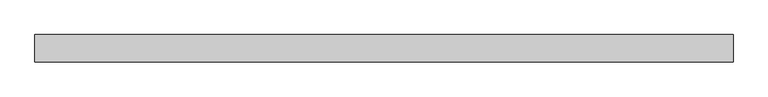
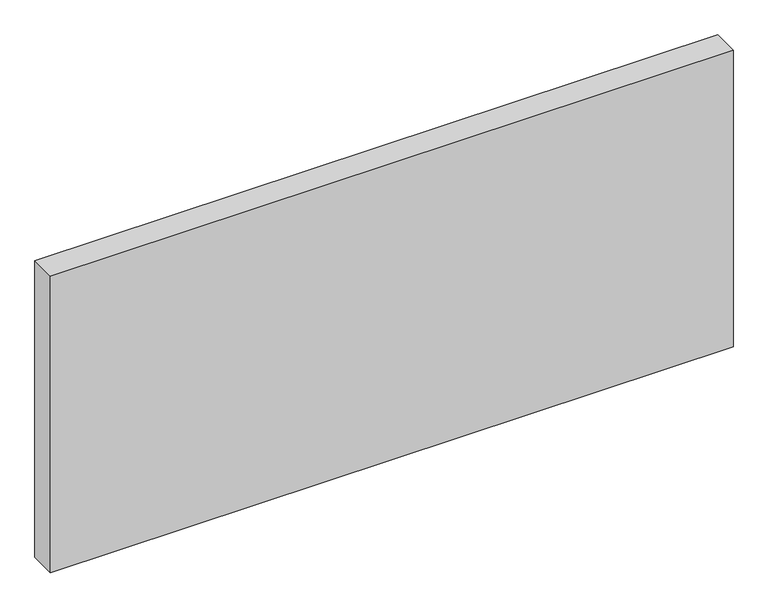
"""IFC4 building model written with IfcOpenShell, lengths in millimetres: plate geometry, 系统嵌板 : 玻璃."""

from ifc_helpers import new_model, si_unit, origin, origin_with_axes, place, context, project, spatial, polyline, outline, extrude, source, transform, mapped, element, save


def plate_625a1d1a(model_context):
    return source(origin(), model_context, "Body", "SweptSolid", [
        extrude(outline(polyline([(762.5, -30.0), (-762.5, -30.0), (-762.5, 30.0), (762.5, 30.0), (762.5, -30.0)])), origin_with_axes(), (0.0, 0.0, 1.0), 700.0),
    ])


if __name__ == "__main__":
    model = new_model("IFC4")
    model_context = context("Model", 3, world=origin())
    ifc_project = project(units=[si_unit("LENGTHUNIT", "METRE", prefix="MILLI")], contexts=[model_context])
    site = spatial("IfcSite", under=ifc_project)
    building = spatial("IfcBuilding", under=site)
    placement = place(None, origin())
    plate_shape = plate_625a1d1a(model_context)
    element("IfcPlate", 1, ObjectType="系统嵌板 : 玻璃", at=placement, inside=building, context=model_context, shape_type="MappedRepresentation", body=[
        mapped(plate_shape, transform((0.0, 0.0, 0.0), x_axis=(1.0, 0.0, 0.0), y_axis=(0.0, 1.0, 0.0), z_axis=(0.0, 0.0, 1.0))),
    ])
    save(model, "model.ifc")
